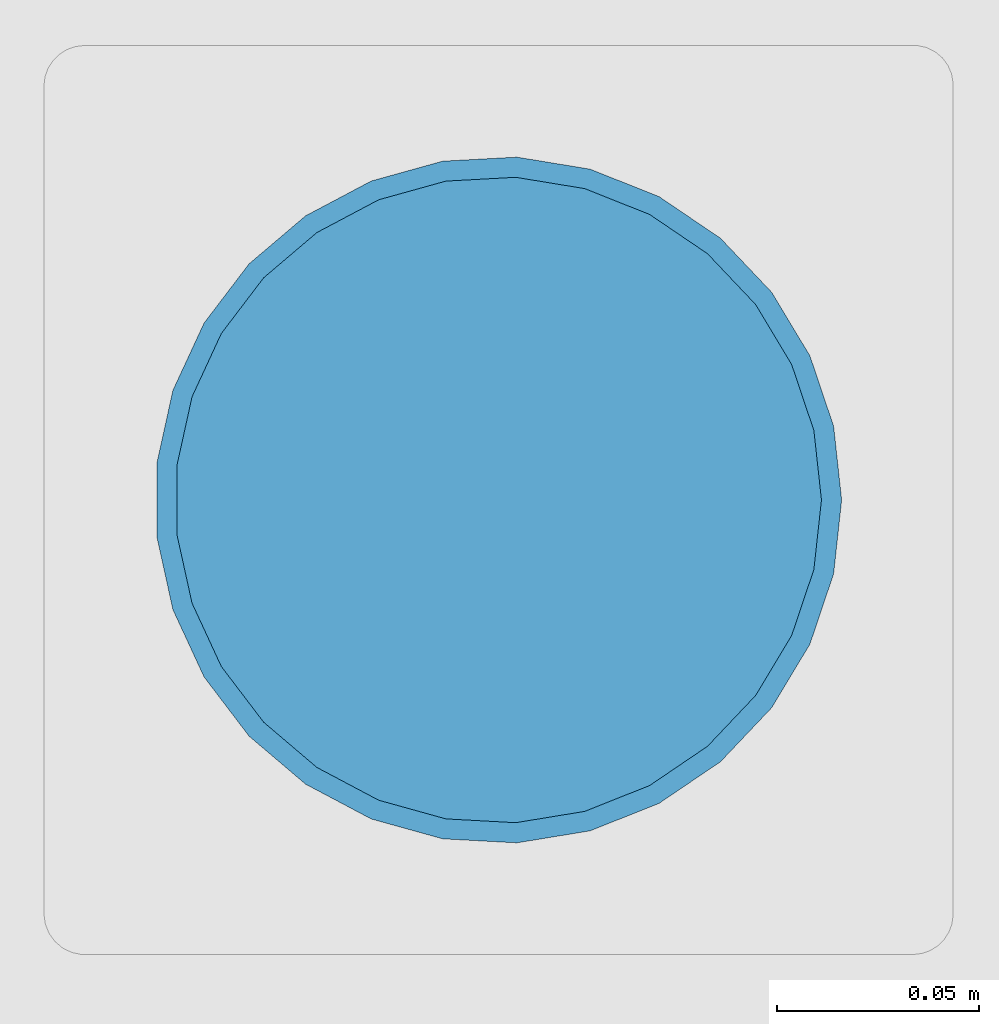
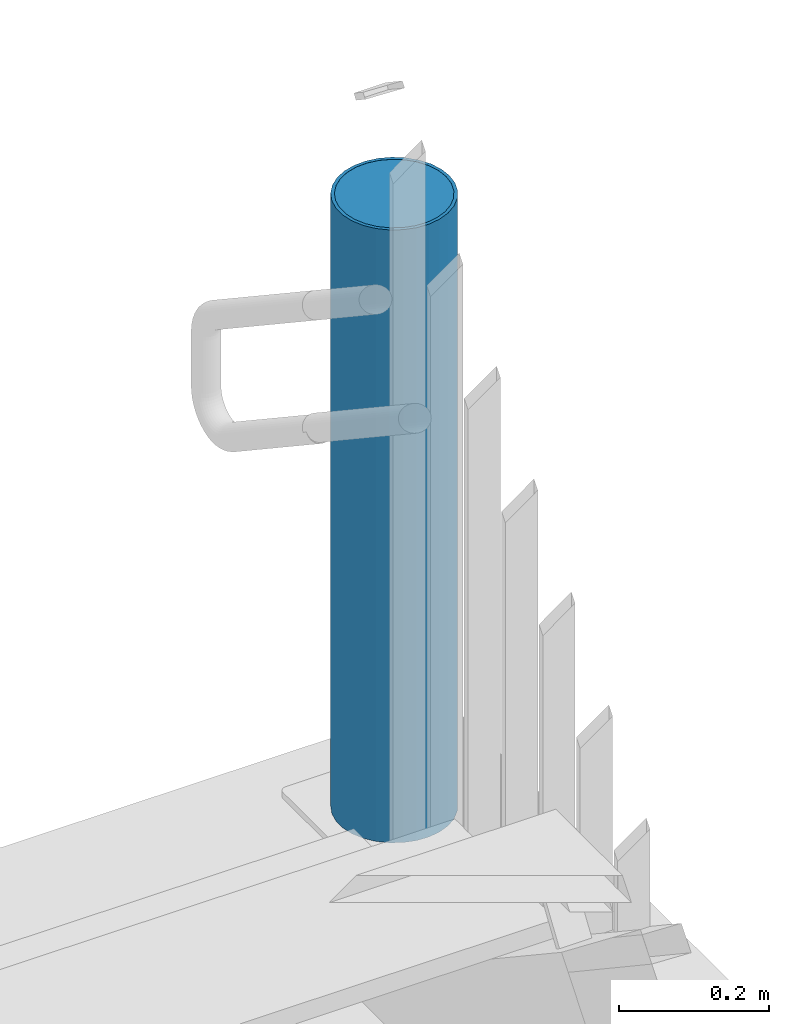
# One storey, part 49 of 418: 2 building element parts, 1 element without a shape of its own.
"""IFC2X3 building model written with IfcOpenShell, lengths in millimetres."""

from ifc_helpers import new_model, entity, si_unit, converted_unit, derived_unit, money_unit, direction, frame, origin_with_axes, origin_2d_with_axis, place, context, subcontext, project, spatial, circle, hollow_circle, extrude, material, type_object, element, aggregate, save


model = new_model("IFC2X3")

# Units and contexts
model_context = context("Model", 3, precision=0.01, world=origin_with_axes(), true_north=direction((0.0, 1.0)))
body_context = subcontext(model_context, "Body", "Model", "MODEL_VIEW")
ifc_project = project(units=[si_unit("LENGTHUNIT", "METRE", prefix="MILLI"), si_unit("AREAUNIT", "SQUARE_METRE"), si_unit("VOLUMEUNIT", "CUBIC_METRE"), converted_unit("PLANEANGLEUNIT", "DEGREE", entity("IfcPlaneAngleMeasure", 0.0174532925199), si_unit("PLANEANGLEUNIT", "RADIAN"), dimensions=[0, 0, 0, 0, 0, 0, 0]), si_unit("SOLIDANGLEUNIT", "STERADIAN"), money_unit("EUR"), converted_unit("TIMEUNIT", "Year", entity("IfcTimeMeasure", 31556926.0), si_unit("TIMEUNIT", "SECOND"), dimensions=[0, 0, 1, 0, 0, 0, 0]), si_unit("MASSUNIT", "GRAM", prefix="KILO"), si_unit("THERMODYNAMICTEMPERATUREUNIT", "DEGREE_CELSIUS"), si_unit("LUMINOUSINTENSITYUNIT", "LUMEN"), si_unit("ENERGYUNIT", "JOULE", prefix="MEGA"), derived_unit("THERMALCONDUCTANCEUNIT", [(si_unit("POWERUNIT", "WATT"), 1), (si_unit("LENGTHUNIT", "METRE"), -1), (si_unit("THERMODYNAMICTEMPERATUREUNIT", "KELVIN"), -1)]), derived_unit("SPECIFICHEATCAPACITYUNIT", [(si_unit("ENERGYUNIT", "JOULE"), 1), (si_unit("MASSUNIT", "GRAM", prefix="KILO"), -1), (si_unit("THERMODYNAMICTEMPERATUREUNIT", "KELVIN"), -1)]), derived_unit("MASSDENSITYUNIT", [(si_unit("MASSUNIT", "GRAM", prefix="KILO"), 1), (si_unit("VOLUMEUNIT", "CUBIC_METRE"), -1)])], contexts=[model_context])

# Site, building, storey
site_placement = place(None, origin_with_axes())
site = spatial("IfcSite", under=ifc_project, at=site_placement, Name="Paldiski mnt 245/1, Tallinn, Harjumaa", CompositionType="COMPLEX")
building_placement = place(site_placement, origin_with_axes())
building = spatial("IfcBuilding", under=site, at=building_placement, Name="RKAS Hoone üldnimetus (kasutust iseloomustav) -> IFC Project Manager -> SOLIBRI", CompositionType="ELEMENT")
storey_placement = place(building_placement, origin_with_axes())
storey = spatial("IfcBuildingStorey", under=building, at=storey_placement, Name="Esimene korrus", CompositionType="ELEMENT", Elevation=0.0)

# Proxy, building element parts
building_element_proxy_type = type_object("IfcBuildingElementProxyType", Name="ET-03_Raud D170", PredefinedType="NOTDEFINED")
proxy_placement = place(storey_placement, frame((-13780.1454738, 2027.43300237, -790.0), z_axis=(0.0, 0.0, 1.0), x_axis=(1.0, 0.0, 0.0)))
proxy = element("IfcBuildingElementProxy", 1, at=proxy_placement, inside=storey, type_object=building_element_proxy_type, Name="Pollar")
ifc_material_1 = material(Name="VV-00_GENEERILINE - VÄLINE VOODER")
building_element_part_1_placement = place(proxy_placement, origin_with_axes())
building_element_part_1 = element("IfcBuildingElementPart", 2, at=building_element_part_1_placement, material=ifc_material_1, Name="VV-00_GENEERILINE - VÄLINE VOODER", context=body_context, shape_type="SweptSolid", body=[
    extrude(hollow_circle(Radius=85.0, WallThickness=5.0, at=origin_2d_with_axis()), origin_with_axes(), (0.0, 0.0, 1.0), 1000.0),
])
ifc_material_2 = material(Name="ET-03_Raud")
building_element_part_2_placement = place(proxy_placement, origin_with_axes())
building_element_part_2 = element("IfcBuildingElementPart", 3, at=building_element_part_2_placement, material=ifc_material_2, Name="ET-03_Raud", context=body_context, shape_type="SweptSolid", body=[
    extrude(circle(Radius=80.0, at=origin_2d_with_axis()), origin_with_axes(), (0.0, 0.0, 1.0), 1000.0),
])
aggregate(proxy, [building_element_part_1, building_element_part_2])

save(model, "model.ifc")
